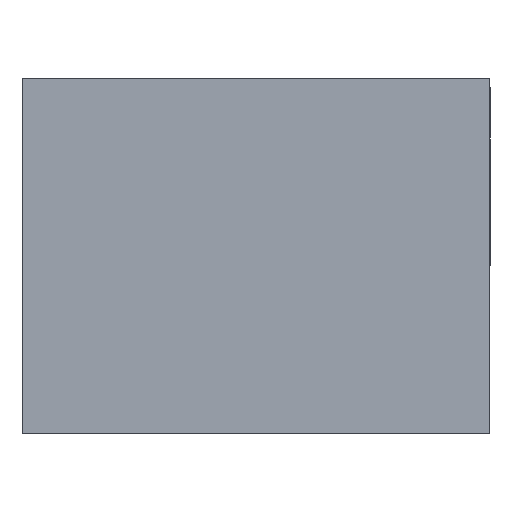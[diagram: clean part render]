
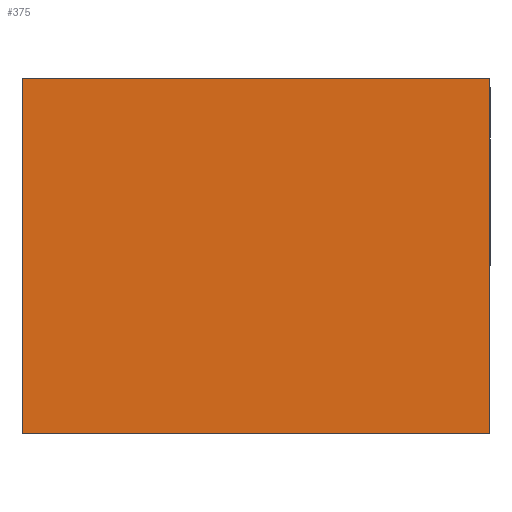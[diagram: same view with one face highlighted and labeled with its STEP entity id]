
A CAD part, front view. The second image highlights one B-rep face of the part: STEP entity #375.
In plain terms, the highlighted planar face has unit normal (0, -1, 0).
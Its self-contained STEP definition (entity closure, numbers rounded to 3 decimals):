
#126 = LINE ( 'NONE', #1827, #1978 ) ;
#223 = CARTESIAN_POINT ( 'NONE',  ( 0., 0., 0. ) ) ;
#245 = ORIENTED_EDGE ( 'NONE', *, *, #2143, .F. ) ;
#311 = PLANE ( 'NONE',  #1507 ) ;
#342 = DIRECTION ( 'NONE',  ( 0., 1., 0. ) ) ;
#345 = DIRECTION ( 'NONE',  ( 0., 0., 1. ) ) ;
#375 = ADVANCED_FACE ( 'NONE', ( #1893 ), #311, .F. ) ;
#425 = CARTESIAN_POINT ( 'NONE',  ( -62.5, 0., -47.5 ) ) ;
#439 = EDGE_CURVE ( 'NONE', #1912, #1019, #1223, .T. ) ;
#507 = DIRECTION ( 'NONE',  ( 1., 0., 0. ) ) ;
#511 = CARTESIAN_POINT ( 'NONE',  ( -62.5, 0., 47.5 ) ) ;
#716 = VERTEX_POINT ( 'NONE', #800 ) ;
#748 = VECTOR ( 'NONE', #507, 1000. ) ;
#800 = CARTESIAN_POINT ( 'NONE',  ( 62.5, 0., -47.5 ) ) ;
#828 = DIRECTION ( 'NONE',  ( 0., 0., 1. ) ) ;
#860 = ORIENTED_EDGE ( 'NONE', *, *, #1888, .F. ) ;
#897 = LINE ( 'NONE', #2181, #1776 ) ;
#1019 = VERTEX_POINT ( 'NONE', #2099 ) ;
#1058 = EDGE_LOOP ( 'NONE', ( #860, #1770, #245, #2040 ) ) ;
#1223 = LINE ( 'NONE', #511, #748 ) ;
#1282 = VECTOR ( 'NONE', #828, 1000. ) ;
#1473 = CARTESIAN_POINT ( 'NONE',  ( -62.5, 0., -47.5 ) ) ;
#1507 = AXIS2_PLACEMENT_3D ( 'NONE', #223, #342, #345 ) ;
#1530 = VERTEX_POINT ( 'NONE', #1473 ) ;
#1770 = ORIENTED_EDGE ( 'NONE', *, *, #439, .F. ) ;
#1776 = VECTOR ( 'NONE', #2182, 1000. ) ;
#1827 = CARTESIAN_POINT ( 'NONE',  ( 62.5, 0., -47.5 ) ) ;
#1870 = DIRECTION ( 'NONE',  ( 0., 0., -1. ) ) ;
#1888 = EDGE_CURVE ( 'NONE', #1019, #716, #126, .T. ) ;
#1893 = FACE_OUTER_BOUND ( 'NONE', #1058, .T. ) ;
#1912 = VERTEX_POINT ( 'NONE', #1915 ) ;
#1915 = CARTESIAN_POINT ( 'NONE',  ( -62.5, 0., 47.5 ) ) ;
#1969 = EDGE_CURVE ( 'NONE', #716, #1530, #897, .T. ) ;
#1978 = VECTOR ( 'NONE', #1870, 1000. ) ;
#2040 = ORIENTED_EDGE ( 'NONE', *, *, #1969, .F. ) ;
#2099 = CARTESIAN_POINT ( 'NONE',  ( 62.5, 0., 47.5 ) ) ;
#2143 = EDGE_CURVE ( 'NONE', #1530, #1912, #2174, .T. ) ;
#2174 = LINE ( 'NONE', #425, #1282 ) ;
#2181 = CARTESIAN_POINT ( 'NONE',  ( -62.5, 0., -47.5 ) ) ;
#2182 = DIRECTION ( 'NONE',  ( -1., 0., 0. ) ) ;
